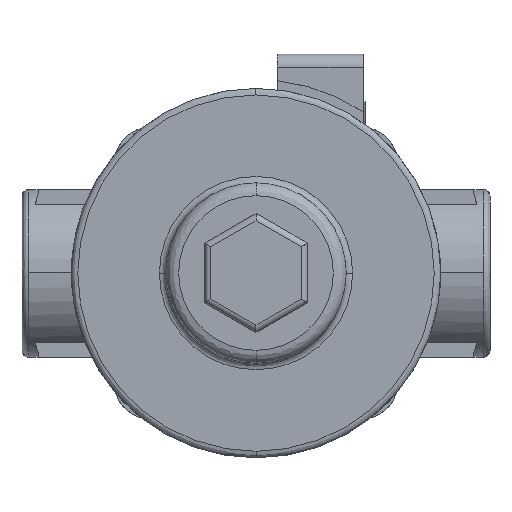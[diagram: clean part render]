
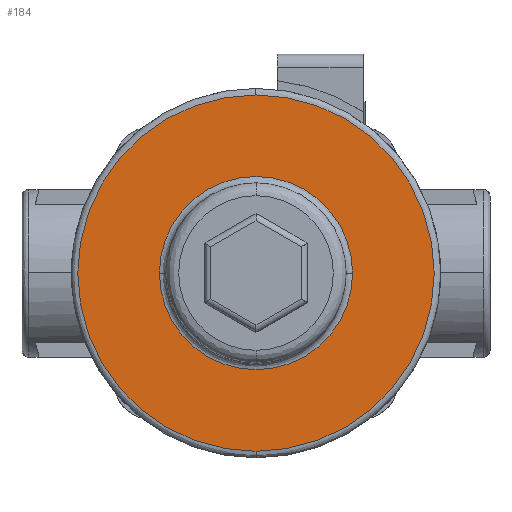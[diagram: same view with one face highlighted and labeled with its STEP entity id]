
A CAD part, top view. The second image highlights one B-rep face of the part: STEP entity #184.
In plain terms, the highlighted planar face has unit normal (0, 0, 1) as drawn and (0, 1, 0) by its records, which use the part's own axes.
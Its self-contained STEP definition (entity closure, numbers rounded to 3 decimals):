
#184=ADVANCED_FACE('',(#1327,#1328),#1326,.T.);
#1326=PLANE('',#2347);
#1327=FACE_OUTER_BOUND('',#2348,.T.);
#1328=FACE_BOUND('',#2349,.T.);
#2344=CARTESIAN_POINT('',(-81.88,42.15,-93.));
#2345=DIRECTION('',(0.,1.,0.));
#2346=DIRECTION('',(0.,0.,1.));
#2347=AXIS2_PLACEMENT_3D('',#2344,#2345,#2346);
#2348=EDGE_LOOP('',(#3371,#3372));
#2349=EDGE_LOOP('',(#3373,#3374,#3375));
#3371=ORIENTED_EDGE('',*,*,#3965,.T.);
#3372=ORIENTED_EDGE('',*,*,#3966,.T.);
#3373=ORIENTED_EDGE('',*,*,#3967,.T.);
#3374=ORIENTED_EDGE('',*,*,#3968,.T.);
#3375=ORIENTED_EDGE('',*,*,#3969,.T.);
#3965=EDGE_CURVE('',#6041,#6042,#6043,.T.);
#3966=EDGE_CURVE('',#6042,#6041,#6049,.T.);
#3967=EDGE_CURVE('',#6055,#6056,#6057,.T.);
#3968=EDGE_CURVE('',#6056,#6063,#6064,.T.);
#3969=EDGE_CURVE('',#6063,#6055,#6070,.T.);
#6041=VERTEX_POINT('',#7943);
#6042=VERTEX_POINT('',#7944);
#6043=CIRCLE('',#7948,41.5);
#6049=CIRCLE('',#7952,41.5);
#6055=VERTEX_POINT('',#7953);
#6056=VERTEX_POINT('',#7954);
#6057=CIRCLE('',#7958,22.5);
#6063=VERTEX_POINT('',#7959);
#6064=CIRCLE('',#7963,22.5);
#6070=CIRCLE('',#7967,22.5);
#7943=CARTESIAN_POINT('',(0.,42.15,41.5));
#7944=CARTESIAN_POINT('',(0.,42.15,-41.5));
#7945=CARTESIAN_POINT('',(0.,42.15,0.));
#7946=DIRECTION('',(0.,1.,0.));
#7947=DIRECTION('',(0.,0.,1.));
#7948=AXIS2_PLACEMENT_3D('',#7945,#7946,#7947);
#7949=CARTESIAN_POINT('',(0.,42.15,0.));
#7950=DIRECTION('',(0.,1.,0.));
#7951=DIRECTION('',(0.,0.,1.));
#7952=AXIS2_PLACEMENT_3D('',#7949,#7950,#7951);
#7953=CARTESIAN_POINT('',(0.,42.15,22.5));
#7954=CARTESIAN_POINT('',(-22.5,42.15,0.));
#7955=CARTESIAN_POINT('',(0.,42.15,0.));
#7956=DIRECTION('',(0.,-1.,0.));
#7957=DIRECTION('',(0.,0.,1.));
#7958=AXIS2_PLACEMENT_3D('',#7955,#7956,#7957);
#7959=CARTESIAN_POINT('',(22.5,42.15,-0.002));
#7960=CARTESIAN_POINT('',(0.,42.15,0.));
#7961=DIRECTION('',(0.,-1.,0.));
#7962=DIRECTION('',(0.,0.,1.));
#7963=AXIS2_PLACEMENT_3D('',#7960,#7961,#7962);
#7964=CARTESIAN_POINT('',(0.,42.15,0.));
#7965=DIRECTION('',(0.,-1.,0.));
#7966=DIRECTION('',(0.,0.,1.));
#7967=AXIS2_PLACEMENT_3D('',#7964,#7965,#7966);
